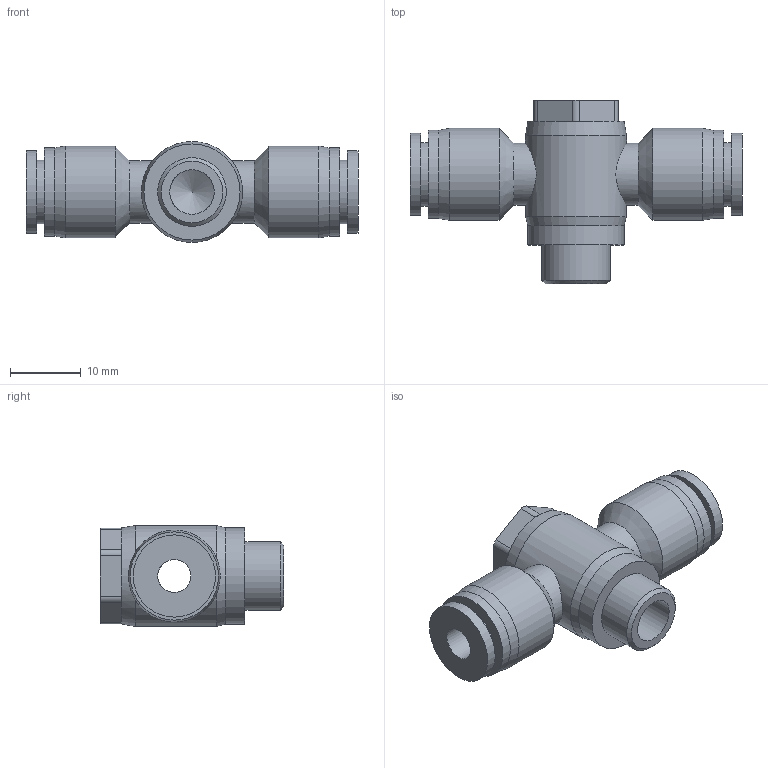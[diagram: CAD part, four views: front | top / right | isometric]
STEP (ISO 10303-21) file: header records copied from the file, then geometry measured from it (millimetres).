
FILE_DESCRIPTION(/* description */ (''),/* implementation_level */ '2;1');
FILE_NAME(/* name */ 'S:\UTecnico\ArchivioUT\Speciali Clienti\Speciali KONFIT\DISEGNI 3D\RP\RP 66\RP661806.stp',/* time_stamp */ '2013-08-01T09:11:17+02:00',/* author */ ('UT5'),/* organization */ (''),/* preprocessor_version */ 'ST-DEVELOPER v15.2',/* originating_system */ 'Autodesk Inventor 2014',/* authorisation */ '');
FILE_SCHEMA (('AUTOMOTIVE_DESIGN { 1 0 10303 214 3 1 1 }'));
Length unit declared in the file: millimetre
Products named in the file (1): RP661806
Bounding box: 47 x 26 x 14.3 mm (x, y, z)
Volume: 5931.8 mm3; surface area: 3867.1 mm2
Topology: 1 solids, 1 shells, 46 faces, 106 edges, 68 vertices
Faces by surface type: cylinder 22, plane 16, cone 8
Full cylindrical faces by diameter (mm): 4.698 x2, 6.3 x1, 8.8 x2, 9 x2, 9.72 x1, 11.65 x2, 12.5 x2, 13 x2, 13.6 x1, 14.3 x1
Entity records: 1292 total; most frequent: CARTESIAN_POINT 323, DIRECTION 202, ORIENTED_EDGE 140, AXIS2_PLACEMENT_3D 89, EDGE_LOOP 82, EDGE_CURVE 70, VERTEX_POINT 58, ADVANCED_FACE 46
